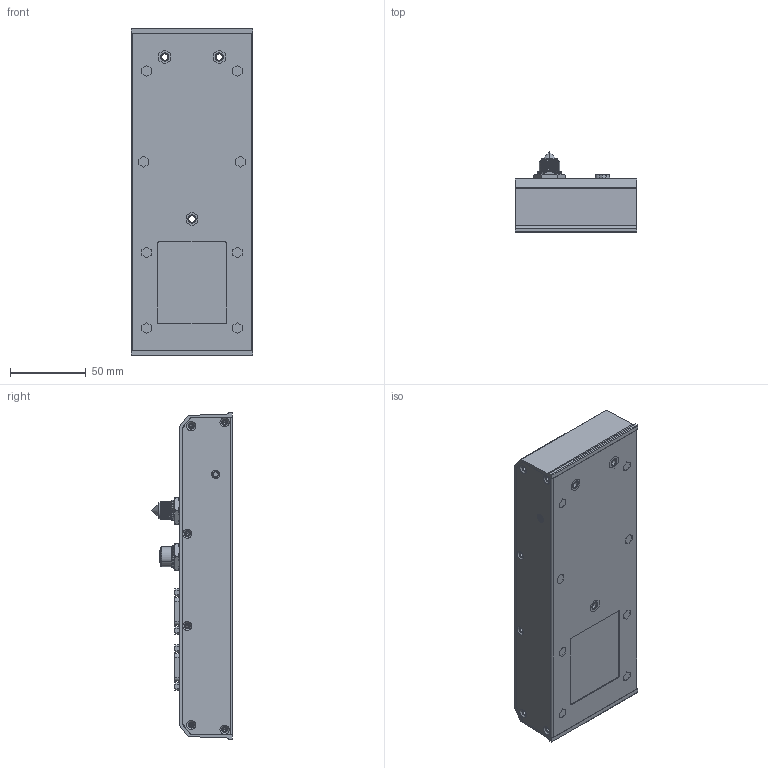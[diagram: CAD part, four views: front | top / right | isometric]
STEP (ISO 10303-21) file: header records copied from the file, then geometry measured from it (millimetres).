
FILE_DESCRIPTION((''),'2;1');
FILE_NAME('NPORT-5450AI-M12','2012-09-17T',('Chialu_Chang'),(''),'PRO/ENGINEER BY PARAMETRIC TECHNOLOGY CORPORATION, 2004320','PRO/ENGINEER BY PARAMETRIC TECHNOLOGY CORPORATION, 2004320','');
FILE_SCHEMA(('CONFIG_CONTROL_DESIGN'));
Products named in the file (1): NPORT-5450AI-M12
Bounding box: 80 x 53.2 x 216.6 mm (x, y, z)
Volume: 153383 mm3; surface area: 153805.6 mm2
Topology: 31 solids, 57 shells, 2132 faces, 5536 edges, 3608 vertices
Faces by surface type: plane 997, cylinder 789, cone 210, bspline 76, sphere 33, torus 27
Entity records: 74570 total; most frequent: CARTESIAN_POINT 21528, DIRECTION 10941, ORIENTED_EDGE 10840, EDGE_CURVE 5469, AXIS2_PLACEMENT_3D 3935, VERTEX_POINT 3608, VECTOR 3071, LINE 3071
